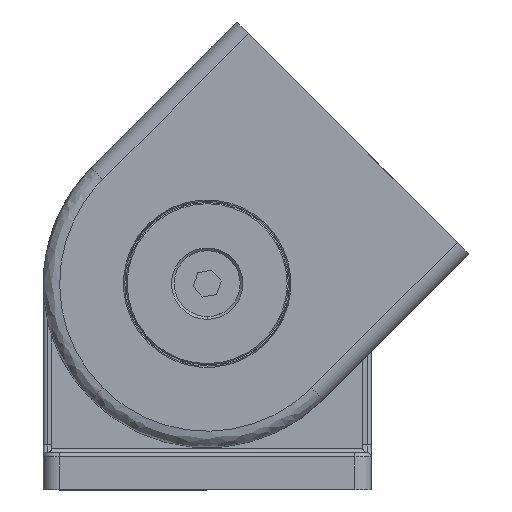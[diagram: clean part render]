
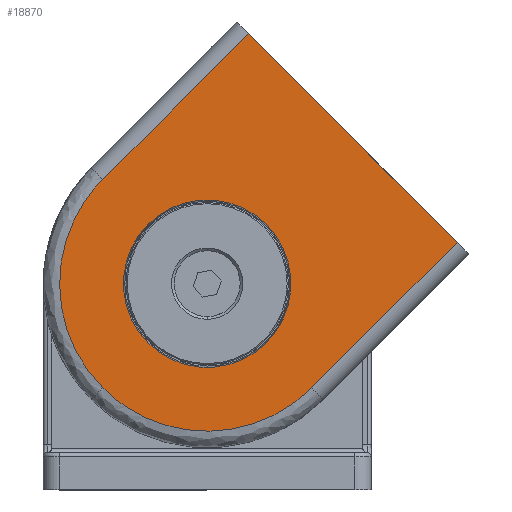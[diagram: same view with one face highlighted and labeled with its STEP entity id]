
A CAD part, top view. The second image highlights one B-rep face of the part: STEP entity #18870.
In plain terms, the highlighted planar face has unit normal (0, 0, 1) as drawn and (0, 1, 0) by its records, which use the part's own axes.
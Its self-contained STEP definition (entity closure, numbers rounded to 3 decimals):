
#932 = EDGE_LOOP ( 'NONE', ( #3013, #16171 ) ) ;
#1414 = DIRECTION ( 'NONE',  ( 0., 1., 0. ) ) ;
#1737 = ORIENTED_EDGE ( 'NONE', *, *, #15355, .F. ) ;
#1998 = EDGE_CURVE ( 'NONE', #12075, #13497, #19280, .T. ) ;
#2050 = FACE_OUTER_BOUND ( 'NONE', #8303, .T. ) ;
#2888 = CARTESIAN_POINT ( 'NONE',  ( 0., 19.9, -76.8 ) ) ;
#3013 = ORIENTED_EDGE ( 'NONE', *, *, #16217, .F. ) ;
#3323 = EDGE_CURVE ( 'NONE', #8246, #12075, #22429, .T. ) ;
#3921 = DIRECTION ( 'NONE',  ( 0., 0., 1. ) ) ;
#4743 = DIRECTION ( 'NONE',  ( -1., 0., 0. ) ) ;
#4791 = CARTESIAN_POINT ( 'NONE',  ( 35.8, 19.9, -41. ) ) ;
#5218 = VERTEX_POINT ( 'NONE', #18105 ) ;
#6876 = CARTESIAN_POINT ( 'NONE',  ( -35.8, 19.9, -61.971 ) ) ;
#7025 = CIRCLE ( 'NONE', #10713, 20.319 ) ;
#7045 = CARTESIAN_POINT ( 'NONE',  ( -35.8, 19.9, -41. ) ) ;
#7209 = DIRECTION ( 'NONE',  ( 0., 0., -1. ) ) ;
#7988 = CARTESIAN_POINT ( 'NONE',  ( 35.8, 19.9, 9. ) ) ;
#8067 = LINE ( 'NONE', #16648, #13356 ) ;
#8246 = VERTEX_POINT ( 'NONE', #13754 ) ;
#8303 = EDGE_LOOP ( 'NONE', ( #17922, #24042, #1737, #23146, #20374 ) ) ;
#8348 = AXIS2_PLACEMENT_3D ( 'NONE', #8970, #18998, #7209 ) ;
#8970 = CARTESIAN_POINT ( 'NONE',  ( 39.8, 19.9, 0. ) ) ;
#9455 = CARTESIAN_POINT ( 'NONE',  ( 0., 19.9, -41. ) ) ;
#9587 = VERTEX_POINT ( 'NONE', #10969 ) ;
#10444 = EDGE_CURVE ( 'NONE', #5218, #8246, #18489, .T. ) ;
#10713 = AXIS2_PLACEMENT_3D ( 'NONE', #9455, #23165, #11473 ) ;
#10969 = CARTESIAN_POINT ( 'NONE',  ( 0., 19.9, -20.681 ) ) ;
#11473 = DIRECTION ( 'NONE',  ( 0., 0., 1. ) ) ;
#12075 = VERTEX_POINT ( 'NONE', #2888 ) ;
#13356 = VECTOR ( 'NONE', #4743, 1000. ) ;
#13460 = CARTESIAN_POINT ( 'NONE',  ( 0., 19.9, -41. ) ) ;
#13497 = VERTEX_POINT ( 'NONE', #4791 ) ;
#13687 = EDGE_CURVE ( 'NONE', #22641, #9587, #7025, .T. ) ;
#13754 = CARTESIAN_POINT ( 'NONE',  ( -35.8, 19.9, -41. ) ) ;
#14687 = LINE ( 'NONE', #23608, #23877 ) ;
#15355 = EDGE_CURVE ( 'NONE', #13497, #23166, #14687, .T. ) ;
#15400 = DIRECTION ( 'NONE',  ( 0., 0., 1. ) ) ;
#15546 = AXIS2_PLACEMENT_3D ( 'NONE', #13460, #1414, #15400 ) ;
#15572 = CIRCLE ( 'NONE', #15546, 20.319 ) ;
#16171 = ORIENTED_EDGE ( 'NONE', *, *, #13687, .F. ) ;
#16217 = EDGE_CURVE ( 'NONE', #9587, #22641, #15572, .T. ) ;
#16648 = CARTESIAN_POINT ( 'NONE',  ( -45.5, 19.9, 9. ) ) ;
#17050 = PLANE ( 'NONE',  #8348 ) ;
#17309 = FACE_BOUND ( 'NONE', #932, .T. ) ;
#17922 = ORIENTED_EDGE ( 'NONE', *, *, #10444, .F. ) ;
#18105 = CARTESIAN_POINT ( 'NONE',  ( -35.8, 19.9, 9. ) ) ;
#18489 = LINE ( 'NONE', #21388, #19079 ) ;
#18795 = EDGE_CURVE ( 'NONE', #23166, #5218, #8067, .T. ) ;
#18870 = ADVANCED_FACE ( 'NONE', ( #2050, #17309 ), #17050, .F. ) ;
#18998 = DIRECTION ( 'NONE',  ( 0., -1., 0. ) ) ;
#19079 = VECTOR ( 'NONE', #25307, 1000. ) ;
#19280 =( BOUNDED_CURVE ( )  B_SPLINE_CURVE ( 3, ( #20214, #20680, #20713, #20744 ),
 .UNSPECIFIED., .F., .T. ) 
 B_SPLINE_CURVE_WITH_KNOTS ( ( 4, 4 ),
 ( 0., 1. ),
 .UNSPECIFIED. ) 
 CURVE ( )  GEOMETRIC_REPRESENTATION_ITEM ( )  RATIONAL_B_SPLINE_CURVE ( ( 1., 0.805, 0.805, 1. ) ) 
 REPRESENTATION_ITEM ( '' )  );
#19306 = CARTESIAN_POINT ( 'NONE',  ( 0., 19.9, -76.8 ) ) ;
#20214 = CARTESIAN_POINT ( 'NONE',  ( 0., 19.9, -76.8 ) ) ;
#20374 = ORIENTED_EDGE ( 'NONE', *, *, #3323, .F. ) ;
#20680 = CARTESIAN_POINT ( 'NONE',  ( 20.971, 19.9, -76.8 ) ) ;
#20713 = CARTESIAN_POINT ( 'NONE',  ( 35.8, 19.9, -61.971 ) ) ;
#20744 = CARTESIAN_POINT ( 'NONE',  ( 35.8, 19.9, -41. ) ) ;
#21241 = CARTESIAN_POINT ( 'NONE',  ( -20.971, 19.9, -76.8 ) ) ;
#21388 = CARTESIAN_POINT ( 'NONE',  ( -35.8, 19.9, 0. ) ) ;
#22429 =( BOUNDED_CURVE ( )  B_SPLINE_CURVE ( 3, ( #7045, #6876, #21241, #19306 ),
 .UNSPECIFIED., .F., .T. ) 
 B_SPLINE_CURVE_WITH_KNOTS ( ( 4, 4 ),
 ( 0., 1. ),
 .UNSPECIFIED. ) 
 CURVE ( )  GEOMETRIC_REPRESENTATION_ITEM ( )  RATIONAL_B_SPLINE_CURVE ( ( 1., 0.805, 0.805, 1. ) ) 
 REPRESENTATION_ITEM ( '' )  );
#22641 = VERTEX_POINT ( 'NONE', #25583 ) ;
#23146 = ORIENTED_EDGE ( 'NONE', *, *, #1998, .F. ) ;
#23165 = DIRECTION ( 'NONE',  ( 0., 1., 0. ) ) ;
#23166 = VERTEX_POINT ( 'NONE', #7988 ) ;
#23608 = CARTESIAN_POINT ( 'NONE',  ( 35.8, 19.9, 0. ) ) ;
#23877 = VECTOR ( 'NONE', #3921, 1000. ) ;
#24042 = ORIENTED_EDGE ( 'NONE', *, *, #18795, .F. ) ;
#25307 = DIRECTION ( 'NONE',  ( 0., 0., -1. ) ) ;
#25583 = CARTESIAN_POINT ( 'NONE',  ( 0., 19.9, -61.319 ) ) ;
